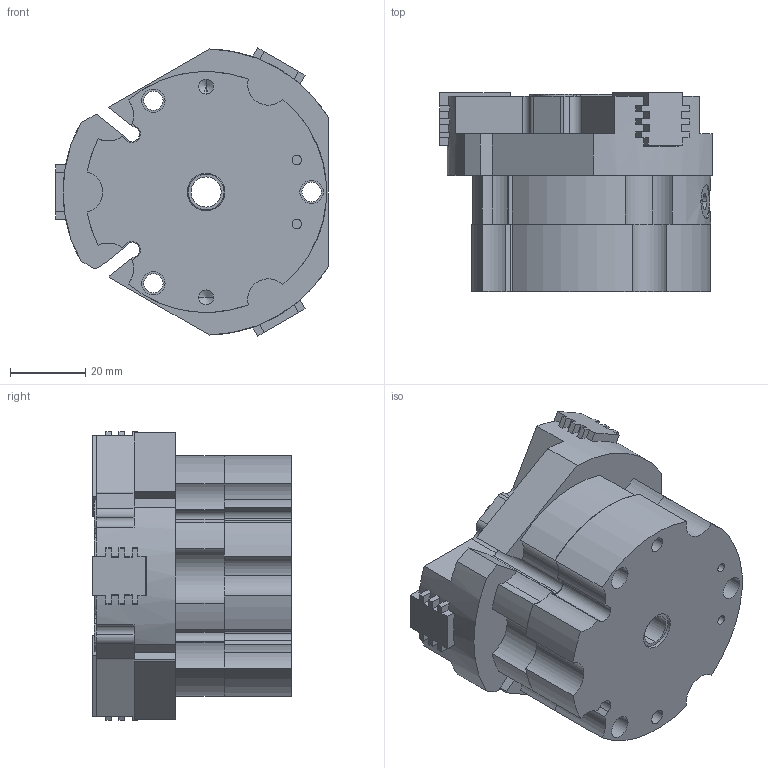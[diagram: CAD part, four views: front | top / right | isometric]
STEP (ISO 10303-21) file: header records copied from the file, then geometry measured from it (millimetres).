
FILE_DESCRIPTION (( 'STEP AP214' ), '1' );
FILE_NAME ('THB-64A-1-IS.STEP', '2021-01-18T03:09:04', ( '' ), ( '' ), 'SwSTEP 2.0', 'SolidWorks 2016', '' );
FILE_SCHEMA (( 'AUTOMOTIVE_DESIGN' ));
Length unit declared in the file: millimetre
Products named in the file (6): THB-64A-1-IS-04; THB-64A-1-IS-03; THB-64A-1-IS-05; THB-64A-1-IS-02; THB-64A-1-IS-01; THB-64A-1-IS
Assembly tree (7 placements, depth 2):
  THB-64A-1-IS
    THB-64A-1-IS-01
    THB-64A-1-IS-02  x3
    THB-64A-1-IS-03
    THB-64A-1-IS-04
    THB-64A-1-IS-05
Bounding box: 72.5 x 52.8 x 76.53 mm (x, y, z)
Volume: 150992.5 mm3; surface area: 49049.9 mm2
Topology: 7 solids, 7 shells, 543 faces, 1506 edges, 973 vertices
Faces by surface type: plane 274, cylinder 215, cone 54
Entity records: 14946 total; most frequent: CARTESIAN_POINT 2630, DIRECTION 2609, ORIENTED_EDGE 2428, EDGE_CURVE 1214, AXIS2_PLACEMENT_3D 958, VERTEX_POINT 801, VECTOR 693, LINE 693
